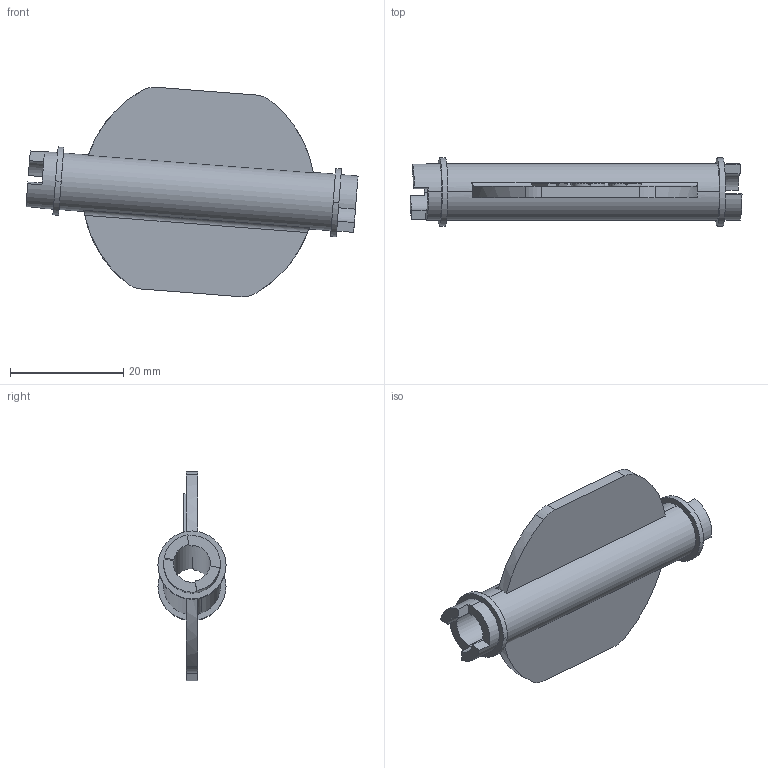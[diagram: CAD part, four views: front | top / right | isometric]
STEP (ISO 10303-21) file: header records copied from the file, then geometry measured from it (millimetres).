
FILE_DESCRIPTION((''),'2;1');
FILE_NAME('0000237122_PRT','2025-11-12T18:33:42',('Wyndorps'),(''),'CREO PARAMETRIC BY PTC INC, 2025010','CREO PARAMETRIC BY PTC INC, 2025010','');
FILE_SCHEMA(('CONFIG_CONTROL_DESIGN'));
Length unit declared in the file: millimetre
Products named in the file (1): 0000237122_PRT
Bounding box: 58.55 x 12 x 36.91 mm (x, y, z)
Volume: 4303.2 mm3; surface area: 4928 mm2
Topology: 1 solids, 1 shells, 104 faces, 282 edges, 188 vertices
Faces by surface type: plane 58, extrusion 24, cylinder 22
Entity records: 3514 total; most frequent: CARTESIAN_POINT 908, ORIENTED_EDGE 564, DIRECTION 458, EDGE_CURVE 282, VECTOR 194, VERTEX_POINT 188, LINE 170, AXIS2_PLACEMENT_3D 132
